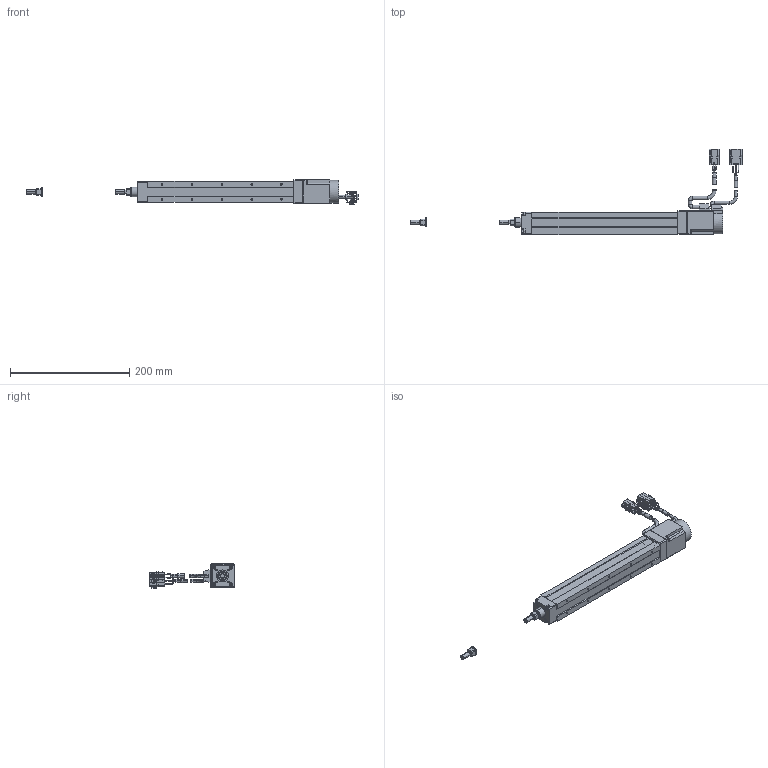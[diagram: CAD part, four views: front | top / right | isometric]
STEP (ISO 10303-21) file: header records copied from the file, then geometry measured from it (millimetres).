
FILE_DESCRIPTION((''),'2;1');
FILE_NAME('BET3D-ST-C_N-15_IGS_PRT','2017-06-18T',(' '),(''),'PRO/ENGINEER BY PARAMETRIC TECHNOLOGY CORPORATION, 2015030','PRO/ENGINEER BY PARAMETRIC TECHNOLOGY CORPORATION, 2015030','');
FILE_SCHEMA(('CONFIG_CONTROL_DESIGN'));
Length unit declared in the file: millimetre
Products named in the file (1): BET3D-ST-C_N-15_IGS_PRT
Bounding box: 556.9 x 144.2 x 40.28 mm (x, y, z)
Volume: 334215.7 mm3; surface area: 110835.6 mm2
Topology: 6 solids, 32 shells, 880 faces, 2222 edges, 1406 vertices
Faces by surface type: plane 500, cylinder 254, torus 64, cone 58, sphere 4
Entity records: 26227 total; most frequent: CARTESIAN_POINT 4678, DIRECTION 4564, ORIENTED_EDGE 4332, EDGE_CURVE 2182, AXIS2_PLACEMENT_3D 1534, VECTOR 1496, LINE 1496, VERTEX_POINT 1406
